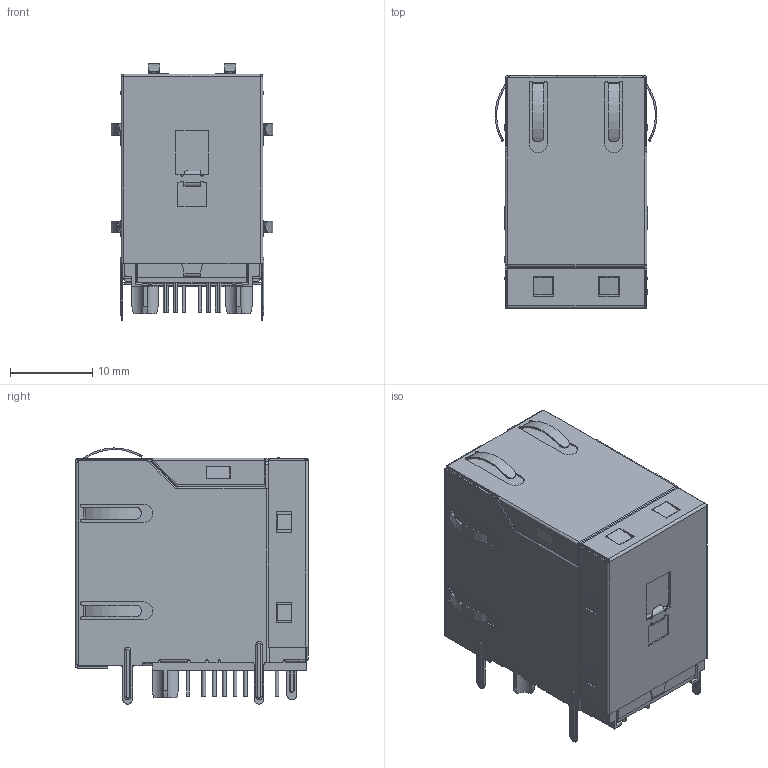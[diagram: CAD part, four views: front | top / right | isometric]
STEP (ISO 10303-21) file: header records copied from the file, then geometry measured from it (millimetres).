
FILE_DESCRIPTION((''),'2;1');
FILE_NAME('DGKYD21B083DC2A2D057','2023-09-13T08:54:07',('Administrator'),(''),'CREO PARAMETRIC BY PTC INC, 2019010','CREO PARAMETRIC BY PTC INC, 2019010','');
FILE_SCHEMA(('CONFIG_CONTROL_DESIGN'));
Products named in the file (1): DGKYD21B083DC2A2D057
Bounding box: 19.68 x 28.35 x 31.19 mm (x, y, z)
Volume: 7371.8 mm3; surface area: 14126 mm2
Topology: 1 solids, 7 shells, 2984 faces, 8706 edges, 5704 vertices
Faces by surface type: plane 2081, cylinder 810, bspline 39, torus 30, sphere 20, extrusion 4
Entity records: 100611 total; most frequent: CARTESIAN_POINT 20028, ORIENTED_EDGE 17372, DIRECTION 16321, EDGE_CURVE 8686, VECTOR 6567, LINE 6563, VERTEX_POINT 5704, AXIS2_PLACEMENT_3D 4877
